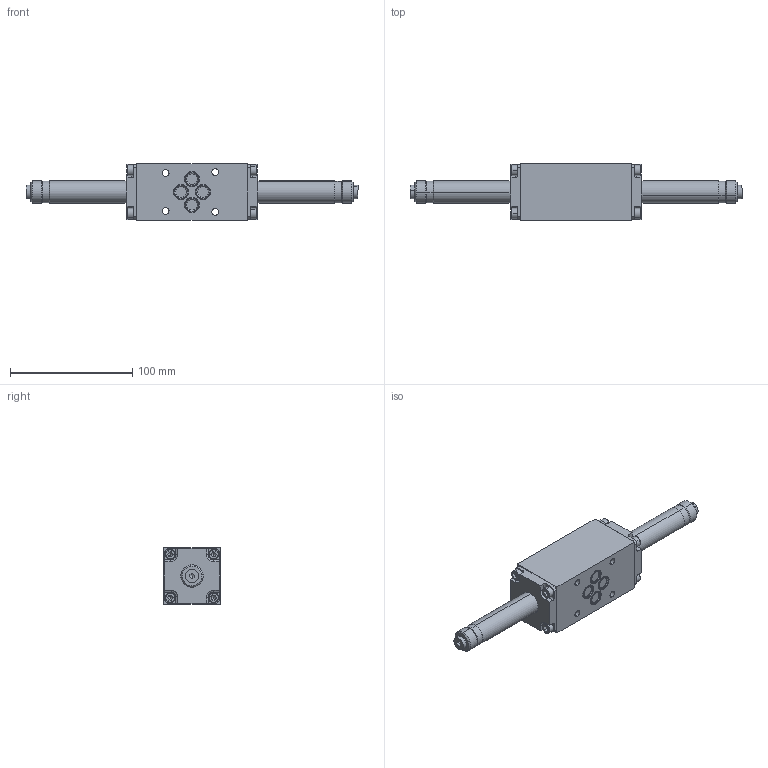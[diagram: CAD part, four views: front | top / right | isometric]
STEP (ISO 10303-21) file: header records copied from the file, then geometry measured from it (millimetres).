
FILE_DESCRIPTION (( 'STEP AP214' ), '1' );
FILE_NAME ('AEXd3406-K9.STEP', '2018-07-04T13:58:46', ( '' ), ( '' ), 'SwSTEP 2.0', 'SolidWorks 2016', '' );
FILE_SCHEMA (( 'AUTOMOTIVE_DESIGN' ));
Length unit declared in the file: millimetre
Products named in the file (2): AEXd3406-K9
Bounding box: 271.2 x 46 x 46 mm (x, y, z)
Volume: 250618.7 mm3; surface area: 58045.2 mm2
Topology: 23 solids, 25 shells, 1250 faces, 3197 edges, 2026 vertices
Faces by surface type: plane 784, cylinder 232, cone 108, torus 72, bspline 54
Entity records: 52414 total; most frequent: CARTESIAN_POINT 7885, DIRECTION 6373, ORIENTED_EDGE 6322, EDGE_CURVE 3161, LINE 2161, VECTOR 2161, AXIS2_PLACEMENT_3D 2106, VERTEX_POINT 2026
